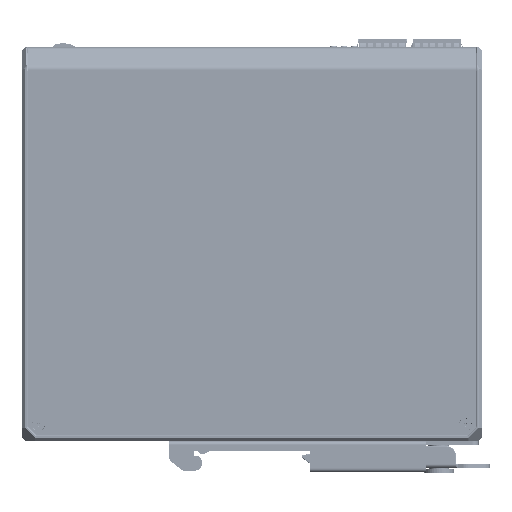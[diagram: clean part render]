
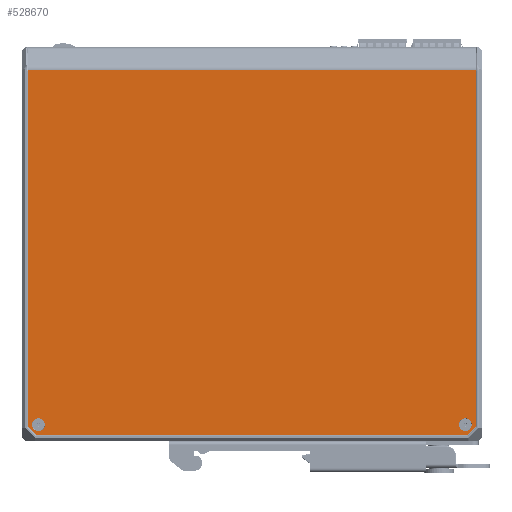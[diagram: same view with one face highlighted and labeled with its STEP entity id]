
A CAD part, left-side view. The second image highlights one B-rep face of the part: STEP entity #528670.
In plain terms, the highlighted planar face has unit normal (-1, 0, 0).
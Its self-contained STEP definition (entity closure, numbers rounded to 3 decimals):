
#521349=DIRECTION('',(0.,0.,1.));
#521350=VECTOR('',#521349,108.357);
#521351=CARTESIAN_POINT('',(-54.9,1.75,-115.326));
#521352=LINE('',#521351,#521350);
#523673=DIRECTION('',(0.,0.,1.));
#523674=VECTOR('',#523673,108.357);
#523675=CARTESIAN_POINT('',(-54.9,138.25,-115.326));
#523676=LINE('',#523675,#523674);
#523701=CARTESIAN_POINT('',(-54.9,135.,-115.));
#523702=DIRECTION('',(1.,0.,0.));
#523703=DIRECTION('',(0.,0.,1.));
#523704=AXIS2_PLACEMENT_3D('',#523701,#523702,#523703);
#523706=CARTESIAN_POINT('',(-54.9,135.,-115.));
#523707=DIRECTION('',(1.,0.,0.));
#523708=DIRECTION('',(0.,0.,-1.));
#523709=AXIS2_PLACEMENT_3D('',#523706,#523707,#523708);
#523711=CARTESIAN_POINT('',(-54.9,5.,-115.));
#523712=DIRECTION('',(1.,0.,0.));
#523713=DIRECTION('',(0.,0.,-1.));
#523714=AXIS2_PLACEMENT_3D('',#523711,#523712,#523713);
#523716=CARTESIAN_POINT('',(-54.9,5.,-115.));
#523717=DIRECTION('',(1.,0.,0.));
#523718=DIRECTION('',(0.,0.,1.));
#523719=AXIS2_PLACEMENT_3D('',#523716,#523717,#523718);
#523721=CARTESIAN_POINT('',(-54.9,2.05,-115.326));
#523722=DIRECTION('',(-1.,0.,0.));
#523723=DIRECTION('',(0.,-0.707,-0.707));
#523724=AXIS2_PLACEMENT_3D('',#523721,#523722,#523723);
#523726=DIRECTION('',(0.,-0.707,0.707));
#523727=VECTOR('',#523726,3.711);
#523728=CARTESIAN_POINT('',(-54.9,4.462,-118.162));
#523729=LINE('',#523728,#523727);
#523730=CARTESIAN_POINT('',(-54.9,4.674,-117.95));
#523731=DIRECTION('',(-1.,0.,0.));
#523732=DIRECTION('',(0.,0.,-1.));
#523733=AXIS2_PLACEMENT_3D('',#523730,#523731,#523732);
#523735=DIRECTION('',(0.,1.,0.));
#523736=VECTOR('',#523735,130.651);
#523737=CARTESIAN_POINT('',(-54.9,4.674,-118.25));
#523738=LINE('',#523737,#523736);
#523739=CARTESIAN_POINT('',(-54.9,135.326,-117.95));
#523740=DIRECTION('',(-1.,0.,0.));
#523741=DIRECTION('',(0.,0.707,-0.707));
#523742=AXIS2_PLACEMENT_3D('',#523739,#523740,#523741);
#523744=DIRECTION('',(0.,-0.707,-0.707));
#523745=VECTOR('',#523744,3.711);
#523746=CARTESIAN_POINT('',(-54.9,138.162,-115.538));
#523747=LINE('',#523746,#523745);
#523748=CARTESIAN_POINT('',(-54.9,137.95,-115.326));
#523749=DIRECTION('',(-1.,0.,0.));
#523750=DIRECTION('',(0.,1.,0.));
#523751=AXIS2_PLACEMENT_3D('',#523748,#523749,#523750);
#523753=DIRECTION('',(0.,-1.,0.));
#523754=VECTOR('',#523753,136.5);
#523755=CARTESIAN_POINT('',(-54.9,138.25,-6.968));
#523756=LINE('',#523755,#523754);
#524845=CARTESIAN_POINT('',(-54.9,135.,-113.05));
#524846=CARTESIAN_POINT('',(-54.9,135.,-116.95));
#524847=VERTEX_POINT('',#524845);
#524848=VERTEX_POINT('',#524846);
#524853=CARTESIAN_POINT('',(-54.9,5.,-116.95));
#524854=CARTESIAN_POINT('',(-54.9,5.,-113.05));
#524855=VERTEX_POINT('',#524853);
#524856=VERTEX_POINT('',#524854);
#525038=CARTESIAN_POINT('',(-54.9,1.75,-6.968));
#525040=VERTEX_POINT('',#525038);
#525041=CARTESIAN_POINT('',(-54.9,138.25,-6.968));
#525042=VERTEX_POINT('',#525041);
#525165=CARTESIAN_POINT('',(-54.9,1.838,-115.538));
#525166=VERTEX_POINT('',#525165);
#525167=CARTESIAN_POINT('',(-54.9,1.75,-115.326));
#525168=VERTEX_POINT('',#525167);
#525169=CARTESIAN_POINT('',(-54.9,4.674,-118.25));
#525170=CARTESIAN_POINT('',(-54.9,4.462,-118.162));
#525171=VERTEX_POINT('',#525169);
#525172=VERTEX_POINT('',#525170);
#525181=CARTESIAN_POINT('',(-54.9,135.538,-118.162));
#525182=VERTEX_POINT('',#525181);
#525183=CARTESIAN_POINT('',(-54.9,135.326,-118.25));
#525184=VERTEX_POINT('',#525183);
#525185=CARTESIAN_POINT('',(-54.9,138.25,-115.326));
#525186=CARTESIAN_POINT('',(-54.9,138.162,-115.538));
#525187=VERTEX_POINT('',#525185);
#525188=VERTEX_POINT('',#525186);
#528634=CARTESIAN_POINT('',(-54.9,1.75,-118.25));
#528635=DIRECTION('',(-1.,0.,0.));
#528636=DIRECTION('',(0.,0.,1.));
#528637=AXIS2_PLACEMENT_3D('',#528634,#528635,#528636);
#528638=PLANE('',#528637);
#528640=ORIENTED_EDGE('',*,*,#528639,.F.);
#528642=ORIENTED_EDGE('',*,*,#528641,.F.);
#528644=ORIENTED_EDGE('',*,*,#528643,.F.);
#528646=ORIENTED_EDGE('',*,*,#528645,.T.);
#528648=ORIENTED_EDGE('',*,*,#528647,.F.);
#528650=ORIENTED_EDGE('',*,*,#528649,.F.);
#528652=ORIENTED_EDGE('',*,*,#528651,.F.);
#528653=ORIENTED_EDGE('',*,*,#528535,.T.);
#528654=ORIENTED_EDGE('',*,*,#528615,.T.);
#528655=ORIENTED_EDGE('',*,*,#525912,.F.);
#528656=EDGE_LOOP('',(#528640,#528642,#528644,#528646,#528648,#528650,#528652,
#528653,#528654,#528655));
#528657=FACE_OUTER_BOUND('',#528656,.F.);
#528659=ORIENTED_EDGE('',*,*,#528658,.F.);
#528661=ORIENTED_EDGE('',*,*,#528660,.F.);
#528662=EDGE_LOOP('',(#528659,#528661));
#528663=FACE_BOUND('',#528662,.F.);
#528665=ORIENTED_EDGE('',*,*,#528664,.F.);
#528667=ORIENTED_EDGE('',*,*,#528666,.F.);
#528668=EDGE_LOOP('',(#528665,#528667));
#528669=FACE_BOUND('',#528668,.F.);
#523705=CIRCLE('',#523704,1.95);
#523710=CIRCLE('',#523709,1.95);
#523715=CIRCLE('',#523714,1.95);
#523720=CIRCLE('',#523719,1.95);
#523725=CIRCLE('',#523724,0.3);
#523734=CIRCLE('',#523733,0.3);
#523743=CIRCLE('',#523742,0.3);
#523752=CIRCLE('',#523751,0.3);
#525912=EDGE_CURVE('',#525168,#525040,#521352,.T.);
#528535=EDGE_CURVE('',#525187,#525042,#523676,.T.);
#528615=EDGE_CURVE('',#525042,#525040,#523756,.T.);
#528639=EDGE_CURVE('',#525166,#525168,#523725,.T.);
#528641=EDGE_CURVE('',#525172,#525166,#523729,.T.);
#528643=EDGE_CURVE('',#525171,#525172,#523734,.T.);
#528645=EDGE_CURVE('',#525171,#525184,#523738,.T.);
#528647=EDGE_CURVE('',#525182,#525184,#523743,.T.);
#528649=EDGE_CURVE('',#525188,#525182,#523747,.T.);
#528651=EDGE_CURVE('',#525187,#525188,#523752,.T.);
#528658=EDGE_CURVE('',#524855,#524856,#523715,.T.);
#528660=EDGE_CURVE('',#524856,#524855,#523720,.T.);
#528664=EDGE_CURVE('',#524847,#524848,#523705,.T.);
#528666=EDGE_CURVE('',#524848,#524847,#523710,.T.);
#528670=ADVANCED_FACE('',(#528657,#528663,#528669),#528638,.T.);
